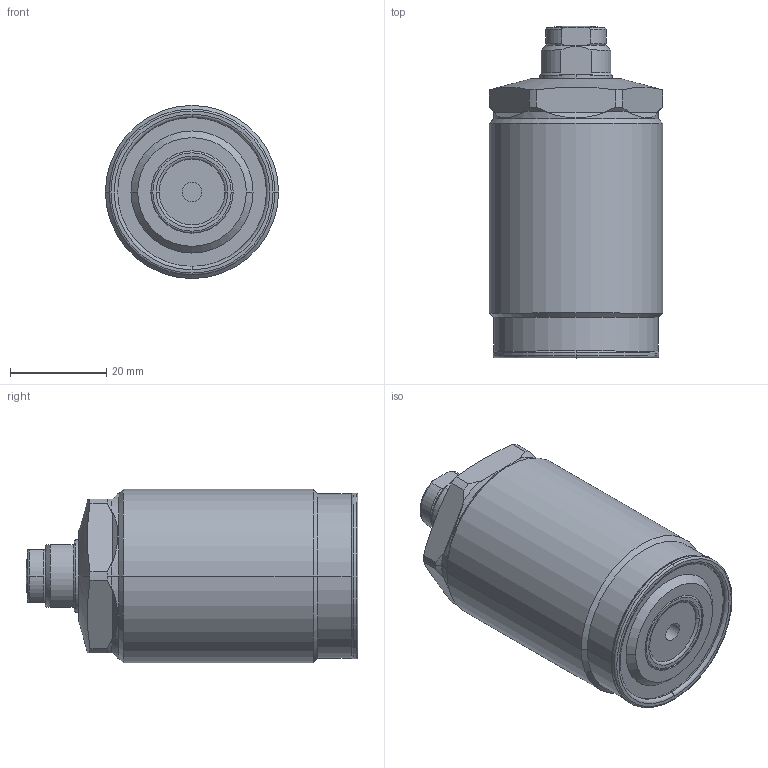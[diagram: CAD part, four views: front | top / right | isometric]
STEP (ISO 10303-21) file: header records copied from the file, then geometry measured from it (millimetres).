
FILE_DESCRIPTION(/* description */ (''),/* implementation_level */ '2;1');
FILE_NAME(/* name */ 'TSC36.stp',/* time_stamp */ '2025-01-10T14:47:56+08:00',/* author */ (''),/* organization */ (''),/* preprocessor_version */ 'ST-DEVELOPER v16.7',/* originating_system */ 'SIEMENS PLM Software NX 12.0',/* authorisation */ '');
FILE_SCHEMA (('AUTOMOTIVE_DESIGN { 1 0 10303 214 3 1 1 1 }'));
Length unit declared in the file: millimetre
Products named in the file (7): XLC-M10_Oring736; XLC-M10_contactbolt737; TSS36-Q-01; TSC36-04; TSC36-03; TSC36-01; TSC36_stp
Assembly tree (6 placements, depth 3):
  TSC36_stp
    TSC36-01
      XLC-M10_contactbolt737
      XLC-M10_Oring736
    TSC36-03
    TSC36-04
    TSS36-Q-01
Bounding box: 36 x 69 x 36 mm (x, y, z)
Volume: 55750 mm3; surface area: 11845.6 mm2
Topology: 5 solids, 5 shells, 143 faces, 323 edges, 200 vertices
Faces by surface type: cylinder 43, plane 37, torus 34, cone 27, sphere 2
Full cylindrical faces by diameter (mm): 4 x1
Entity records: 4351 total; most frequent: CARTESIAN_POINT 906, DIRECTION 769, ORIENTED_EDGE 644, AXIS2_PLACEMENT_3D 337, EDGE_CURVE 322, VERTEX_POINT 200, CIRCLE 187, EDGE_LOOP 158
